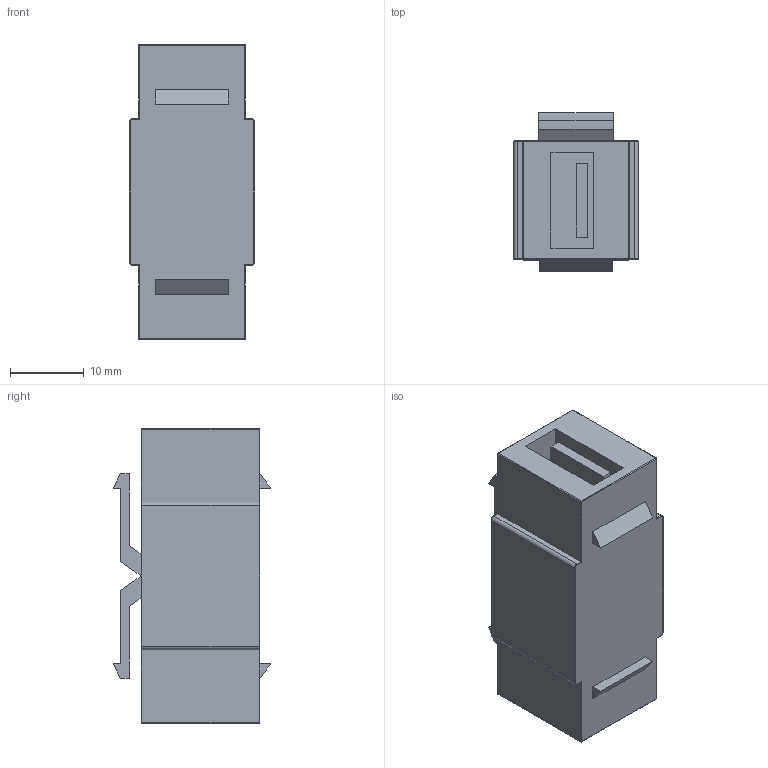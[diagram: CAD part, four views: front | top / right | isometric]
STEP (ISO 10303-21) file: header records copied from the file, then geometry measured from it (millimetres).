
FILE_DESCRIPTION(('FreeCAD Model'),'2;1');
FILE_NAME('Open CASCADE Shape Model','2026-04-23T12:40:18',(''),(''), 'Open CASCADE STEP processor 7.8','FreeCAD','Unknown');
FILE_SCHEMA(('AUTOMOTIVE_DESIGN { 1 0 10303 214 1 1 1 1 }'));
Length unit declared in the file: millimetre
Products named in the file (1): SIM-USBAB-XX-SX
Bounding box: 17 x 21.4 x 40 mm (x, y, z)
Volume: 9519.1 mm3; surface area: 4556.4 mm2
Topology: 1 solids, 1 shells, 115 faces, 271 edges, 158 vertices
Faces by surface type: plane 67, cylinder 32, sphere 8, torus 8
Entity records: 3187 total; most frequent: DIRECTION 559, CARTESIAN_POINT 537, ORIENTED_EDGE 526, EDGE_CURVE 263, LINE 199, VECTOR 199, AXIS2_PLACEMENT_3D 180, VERTEX_POINT 158
